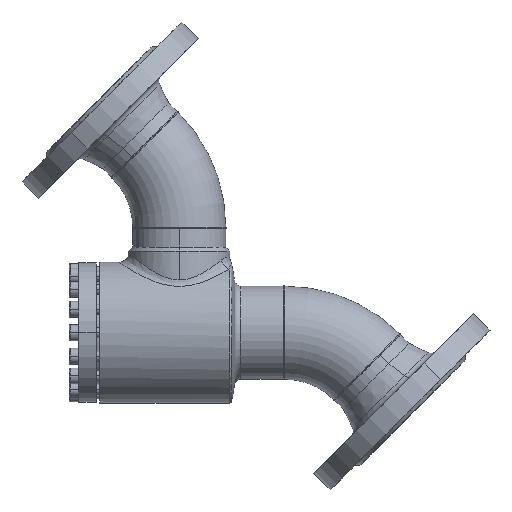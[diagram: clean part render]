
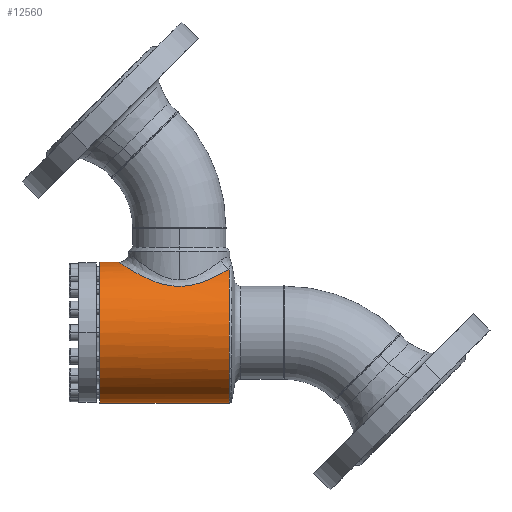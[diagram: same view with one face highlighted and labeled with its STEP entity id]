
A CAD part, left-side view. The second image highlights one B-rep face of the part: STEP entity #12560.
In plain terms, the highlighted cylindrical face has radius 57.5 mm (diameter 115 mm), a partial arc.
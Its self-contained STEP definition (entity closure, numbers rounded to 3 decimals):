
#16632 = VERTEX_POINT ( 'NONE', #9853 ) ;
#16842 = EDGE_CURVE ( 'NONE', #10406, #16632, #10145, .T. ) ;
#479 = ORIENTED_EDGE ( 'NONE', *, *, #14688, .T. ) ;
#907 = EDGE_CURVE ( 'NONE', #10745, #5294, #5145, .T. ) ;
#17533 = EDGE_CURVE ( 'NONE', #16632, #15551, #1729, .T. ) ;
#1346 = FACE_OUTER_BOUND ( 'NONE', #12321, .T. ) ;
#1350 = CYLINDRICAL_SURFACE ( 'NONE', #1351, 57.5 ) ;
#1351 = AXIS2_PLACEMENT_3D ( 'NONE', #1352, #1353, #1354 ) ;
#1352 = CARTESIAN_POINT ( 'NONE',  ( 0., -111., 0. ) ) ;
#1353 = DIRECTION ( 'NONE',  ( 0., 1., 0. ) ) ;
#1354 = DIRECTION ( 'NONE',  ( 0., 0., 1. ) ) ;
#17895 = ORIENTED_EDGE ( 'NONE', *, *, #17533, .F. ) ;
#1729 = CIRCLE ( 'NONE', #1730, 57.5 ) ;
#1730 = AXIS2_PLACEMENT_3D ( 'NONE', #1731, #1732, #1733 ) ;
#1731 = CARTESIAN_POINT ( 'NONE',  ( 0., 0., 0. ) ) ;
#1732 = DIRECTION ( 'NONE',  ( 0., 1., 0. ) ) ;
#1733 = DIRECTION ( 'NONE',  ( 0., 0., 1. ) ) ;
#2922 = CARTESIAN_POINT ( 'NONE',  ( 0., -15.7, 57.5 ) ) ;
#3139 = LINE ( 'NONE', #3140, #3141 ) ;
#3140 = CARTESIAN_POINT ( 'NONE',  ( 0., -111., 57.5 ) ) ;
#3141 = VECTOR ( 'NONE', #3142, 1000. ) ;
#3142 = DIRECTION ( 'NONE',  ( 0., 1., 0. ) ) ;
#3693 = CARTESIAN_POINT ( 'NONE',  ( 0., 0., 57.5 ) ) ;
#5145 = B_SPLINE_CURVE_WITH_KNOTS ( 'NONE', 3,
 ( #5146, #5147, #5148, #5149, #5150, #5151, #5153, #5154, #5155, #5156, #5157, #5158, #5159, #5160, #5161, #5162, #5163, #5164, #5165, #5166, #5167, #5168, #5170, #5171, #5172, #5173, #5174, #5175, #5176, #5177, #5178, #5179, #5180, #5181, #5182, #5183, #5184, #5185, #5190, #5191, #5192, #5193, #5194, #5195, #5196, #5197, #5198, #5199, #5200, #5201, #5202, #5203, #5204, #5205, #5206, #5207, #5208, #5209, #5210, #5211, #5212, #5213 ),
 .UNSPECIFIED., .F., .F.,
 ( 4, 2, 2, 2, 2, 2, 2, 2, 2, 2, 2, 2, 2, 2, 2, 2, 2, 2, 2, 2, 2, 2, 2, 2, 2, 2, 2, 2, 2, 2, 4 ),
 ( 0., 0.008, 0.016, 0.017, 0.019, 0.023, 0.031, 0.035, 0.039, 0.047, 0.049, 0.05, 0.054, 0.058, 0.06, 0.062, 0.07, 0.074, 0.078, 0.085, 0.089, 0.091, 0.093, 0.101, 0.105, 0.107, 0.109, 0.116, 0.118, 0.12, 0.124 ),
 .UNSPECIFIED. ) ;
#5146 = CARTESIAN_POINT ( 'NONE',  ( -24.174, -105.892, 52.171 ) ) ;
#5147 = CARTESIAN_POINT ( 'NONE',  ( -26.132, -104.39, 51.264 ) ) ;
#5148 = CARTESIAN_POINT ( 'NONE',  ( -27.915, -102.76, 50.305 ) ) ;
#5149 = CARTESIAN_POINT ( 'NONE',  ( -31.195, -99.268, 48.34 ) ) ;
#5150 = CARTESIAN_POINT ( 'NONE',  ( -32.691, -97.405, 47.333 ) ) ;
#5151 = CARTESIAN_POINT ( 'NONE',  ( -34.397, -94.927, 46.079 ) ) ;
#5153 = CARTESIAN_POINT ( 'NONE',  ( -34.73, -94.424, 45.829 ) ) ;
#5154 = CARTESIAN_POINT ( 'NONE',  ( -35.379, -93.402, 45.329 ) ) ;
#5155 = CARTESIAN_POINT ( 'NONE',  ( -35.695, -92.884, 45.08 ) ) ;
#5156 = CARTESIAN_POINT ( 'NONE',  ( -36.613, -91.317, 44.344 ) ) ;
#5157 = CARTESIAN_POINT ( 'NONE',  ( -37.186, -90.253, 43.863 ) ) ;
#5158 = CARTESIAN_POINT ( 'NONE',  ( -38.793, -86.998, 42.466 ) ) ;
#5159 = CARTESIAN_POINT ( 'NONE',  ( -39.716, -84.747, 41.594 ) ) ;
#5160 = CARTESIAN_POINT ( 'NONE',  ( -40.882, -81.225, 40.437 ) ) ;
#5161 = CARTESIAN_POINT ( 'NONE',  ( -41.234, -80.027, 40.077 ) ) ;
#5162 = CARTESIAN_POINT ( 'NONE',  ( -41.862, -77.576, 39.421 ) ) ;
#5163 = CARTESIAN_POINT ( 'NONE',  ( -42.138, -76.319, 39.125 ) ) ;
#5164 = CARTESIAN_POINT ( 'NONE',  ( -42.831, -72.529, 38.37 ) ) ;
#5165 = CARTESIAN_POINT ( 'NONE',  ( -43.12, -69.961, 38.038 ) ) ;
#5166 = CARTESIAN_POINT ( 'NONE',  ( -43.257, -66.692, 37.883 ) ) ;
#5167 = CARTESIAN_POINT ( 'NONE',  ( -43.273, -66.034, 37.864 ) ) ;
#5168 = CARTESIAN_POINT ( 'NONE',  ( -43.282, -64.718, 37.854 ) ) ;
#5170 = CARTESIAN_POINT ( 'NONE',  ( -43.275, -64.063, 37.862 ) ) ;
#5171 = CARTESIAN_POINT ( 'NONE',  ( -43.219, -62.103, 37.926 ) ) ;
#5172 = CARTESIAN_POINT ( 'NONE',  ( -43.137, -60.806, 38.02 ) ) ;
#5173 = CARTESIAN_POINT ( 'NONE',  ( -42.884, -58.229, 38.305 ) ) ;
#5174 = CARTESIAN_POINT ( 'NONE',  ( -42.713, -56.95, 38.496 ) ) ;
#5175 = CARTESIAN_POINT ( 'NONE',  ( -42.391, -55.043, 38.85 ) ) ;
#5176 = CARTESIAN_POINT ( 'NONE',  ( -42.272, -54.408, 38.979 ) ) ;
#5177 = CARTESIAN_POINT ( 'NONE',  ( -42.014, -53.15, 39.257 ) ) ;
#5178 = CARTESIAN_POINT ( 'NONE',  ( -41.875, -52.528, 39.406 ) ) ;
#5179 = CARTESIAN_POINT ( 'NONE',  ( -41.13, -49.446, 40.191 ) ) ;
#5180 = CARTESIAN_POINT ( 'NONE',  ( -40.378, -47.077, 40.957 ) ) ;
#5181 = CARTESIAN_POINT ( 'NONE',  ( -39.022, -43.642, 42.237 ) ) ;
#5182 = CARTESIAN_POINT ( 'NONE',  ( -38.532, -42.517, 42.685 ) ) ;
#5183 = CARTESIAN_POINT ( 'NONE',  ( -37.473, -40.304, 43.618 ) ) ;
#5184 = CARTESIAN_POINT ( 'NONE',  ( -36.908, -39.223, 44.098 ) ) ;
#5185 = CARTESIAN_POINT ( 'NONE',  ( -35.115, -36.073, 45.559 ) ) ;
#5190 = CARTESIAN_POINT ( 'NONE',  ( -33.785, -34.085, 46.562 ) ) ;
#5191 = CARTESIAN_POINT ( 'NONE',  ( -31.574, -31.259, 48.064 ) ) ;
#5192 = CARTESIAN_POINT ( 'NONE',  ( -30.801, -30.343, 48.564 ) ) ;
#5193 = CARTESIAN_POINT ( 'NONE',  ( -29.582, -29.009, 49.309 ) ) ;
#5194 = CARTESIAN_POINT ( 'NONE',  ( -29.166, -28.57, 49.557 ) ) ;
#5195 = CARTESIAN_POINT ( 'NONE',  ( -28.313, -27.708, 50.049 ) ) ;
#5196 = CARTESIAN_POINT ( 'NONE',  ( -27.875, -27.282, 50.294 ) ) ;
#5197 = CARTESIAN_POINT ( 'NONE',  ( -25.646, -25.201, 51.504 ) ) ;
#5198 = CARTESIAN_POINT ( 'NONE',  ( -23.737, -23.688, 52.419 ) ) ;
#5199 = CARTESIAN_POINT ( 'NONE',  ( -20.66, -21.659, 53.671 ) ) ;
#5200 = CARTESIAN_POINT ( 'NONE',  ( -19.599, -21.023, 54.069 ) ) ;
#5201 = CARTESIAN_POINT ( 'NONE',  ( -17.948, -20.134, 54.63 ) ) ;
#5202 = CARTESIAN_POINT ( 'NONE',  ( -17.388, -19.848, 54.811 ) ) ;
#5203 = CARTESIAN_POINT ( 'NONE',  ( -16.247, -19.3, 55.16 ) ) ;
#5204 = CARTESIAN_POINT ( 'NONE',  ( -15.665, -19.037, 55.328 ) ) ;
#5205 = CARTESIAN_POINT ( 'NONE',  ( -12.734, -17.796, 56.125 ) ) ;
#5206 = CARTESIAN_POINT ( 'NONE',  ( -10.302, -17.028, 56.627 ) ) ;
#5207 = CARTESIAN_POINT ( 'NONE',  ( -7.142, -16.371, 57.058 ) ) ;
#5208 = CARTESIAN_POINT ( 'NONE',  ( -6.505, -16.254, 57.135 ) ) ;
#5209 = CARTESIAN_POINT ( 'NONE',  ( -5.216, -16.054, 57.267 ) ) ;
#5210 = CARTESIAN_POINT ( 'NONE',  ( -4.563, -15.969, 57.322 ) ) ;
#5211 = CARTESIAN_POINT ( 'NONE',  ( -2.602, -15.766, 57.456 ) ) ;
#5212 = CARTESIAN_POINT ( 'NONE',  ( -1.298, -15.7, 57.5 ) ) ;
#5213 = CARTESIAN_POINT ( 'NONE',  ( 0., -15.7, 57.5 ) ) ;
#5294 = VERTEX_POINT ( 'NONE', #2922 ) ;
#5845 = CARTESIAN_POINT ( 'NONE',  ( 0., -105.892, -57.5 ) ) ;
#6111 = CARTESIAN_POINT ( 'NONE',  ( -24.174, -105.892, 52.171 ) ) ;
#6256 = CIRCLE ( 'NONE', #6257, 57.5 ) ;
#6257 = AXIS2_PLACEMENT_3D ( 'NONE', #6258, #6259, #6260 ) ;
#6258 = CARTESIAN_POINT ( 'NONE',  ( 0., -105.892, 0. ) ) ;
#6259 = DIRECTION ( 'NONE',  ( 0., 1., 0. ) ) ;
#6260 = DIRECTION ( 'NONE',  ( 0., 0., -1. ) ) ;
#9853 = CARTESIAN_POINT ( 'NONE',  ( 0., 0., -57.5 ) ) ;
#10070 = ORIENTED_EDGE ( 'NONE', *, *, #907, .T. ) ;
#10145 = LINE ( 'NONE', #10146, #10147 ) ;
#10146 = CARTESIAN_POINT ( 'NONE',  ( 0., -111., -57.5 ) ) ;
#10147 = VECTOR ( 'NONE', #10148, 1000. ) ;
#10148 = DIRECTION ( 'NONE',  ( 0., 1., 0. ) ) ;
#10406 = VERTEX_POINT ( 'NONE', #5845 ) ;
#10745 = VERTEX_POINT ( 'NONE', #6111 ) ;
#10957 = EDGE_CURVE ( 'NONE', #10406, #10745, #6256, .T. ) ;
#11314 = ORIENTED_EDGE ( 'NONE', *, *, #10957, .T. ) ;
#11818 = ORIENTED_EDGE ( 'NONE', *, *, #16842, .F. ) ;
#12321 = EDGE_LOOP ( 'NONE', ( #11818, #11314, #10070, #479, #17895 ) ) ;
#12560 = ADVANCED_FACE ( 'NONE', ( #1346 ), #1350, .T. ) ;
#14688 = EDGE_CURVE ( 'NONE', #5294, #15551, #3139, .T. ) ;
#15551 = VERTEX_POINT ( 'NONE', #3693 ) ;
